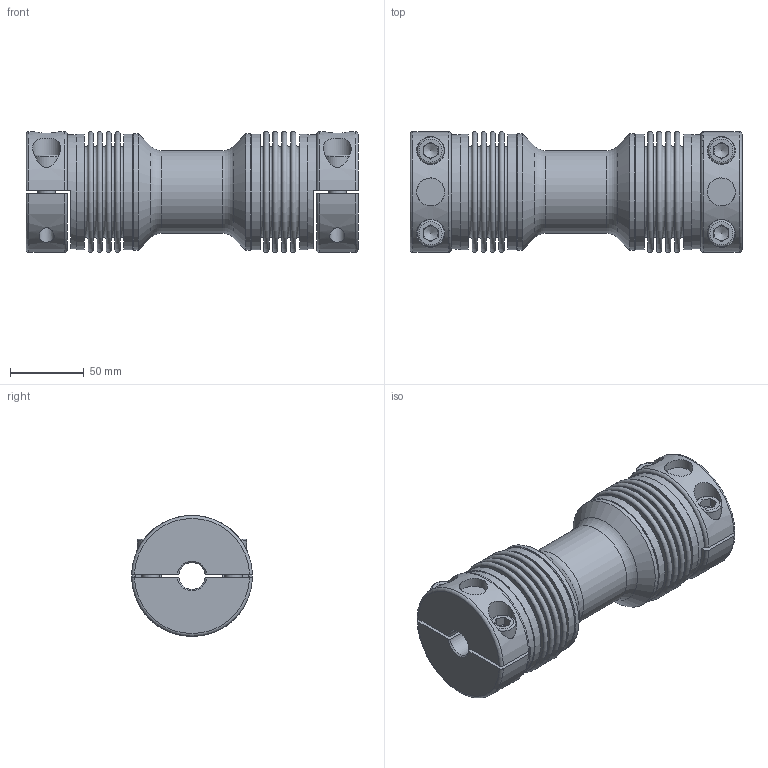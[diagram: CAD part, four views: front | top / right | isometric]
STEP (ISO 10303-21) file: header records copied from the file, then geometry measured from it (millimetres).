
FILE_DESCRIPTION(/* description */ ('Unknown'),/* implementation_level */ '2;1');
FILE_NAME(/* name */ 'WDZ 200',/* time_stamp */ '2020-05-12T08:46:42+03:00',/* author */ ('Unknown'),/* organization */ ('Unknown'),/* preprocessor_version */ 'ST-DEVELOPER v16.7',/* originating_system */ 'DEX',/* authorisation */ $);
FILE_SCHEMA (('AUTOMOTIVE_DESIGN {1 0 10303 214 3 1 1}'));
Length unit declared in the file: millimetre
Products named in the file (1): WDZ 2002
Bounding box: 225 x 82 x 82 mm (x, y, z)
Volume: 518980.5 mm3; surface area: 222061.9 mm2
Topology: 1 solids, 3 shells, 276 faces, 571 edges, 373 vertices
Faces by surface type: plane 142, torus 62, cylinder 56, cone 16
Full cylindrical faces by diameter (mm): 10.2 x4, 12 x4, 12.5 x4, 13 x4, 18 x4, 19 x6, 42 x2, 49.4 x2, 50 x1, 51 x4, 56 x1, 58.5 x2, 77.3 x4, 78.5 x4, 79 x2
Entity records: 6688 total; most frequent: CARTESIAN_POINT 1305, DIRECTION 1186, ORIENTED_EDGE 828, AXIS2_PLACEMENT_3D 521, FACE_BOUND 476, EDGE_LOOP 472, EDGE_CURVE 414, VERTEX_POINT 334
